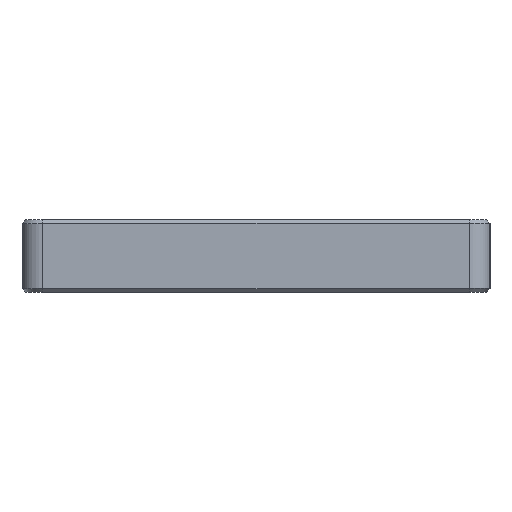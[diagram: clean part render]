
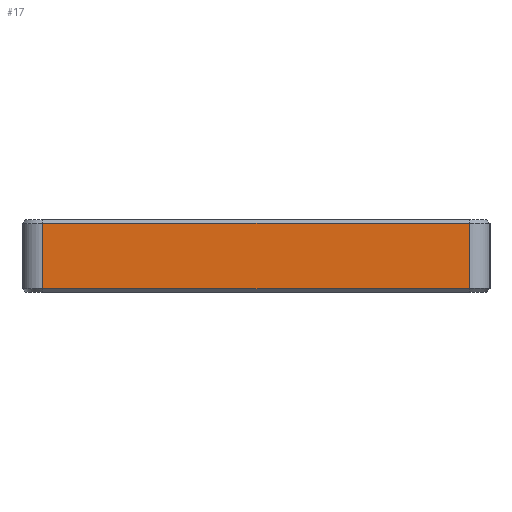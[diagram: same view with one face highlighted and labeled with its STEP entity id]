
A CAD part, left-side view. The second image highlights one B-rep face of the part: STEP entity #17.
In plain terms, the highlighted planar face has unit normal (-1, 0, 0).
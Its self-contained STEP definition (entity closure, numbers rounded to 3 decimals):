
#17 = ADVANCED_FACE('',(#18),#32,.F.);
#18 = FACE_BOUND('',#19,.F.);
#19 = EDGE_LOOP('',(#20,#55,#83,#111));
#20 = ORIENTED_EDGE('',*,*,#21,.F.);
#21 = EDGE_CURVE('',#22,#24,#26,.T.);
#22 = VERTEX_POINT('',#23);
#23 = CARTESIAN_POINT('',(-26.,-8.2,-1.25));
#24 = VERTEX_POINT('',#25);
#25 = CARTESIAN_POINT('',(-26.,-8.2,1.25));
#26 = SURFACE_CURVE('',#27,(#31,#43),.PCURVE_S1.);
#27 = LINE('',#28,#29);
#28 = CARTESIAN_POINT('',(-26.,-8.2,-1.4));
#29 = VECTOR('',#30,1.);
#30 = DIRECTION('',(0.,0.,1.));
#31 = PCURVE('',#32,#37);
#32 = PLANE('',#33);
#33 = AXIS2_PLACEMENT_3D('',#34,#35,#36);
#34 = CARTESIAN_POINT('',(-26.,-9.,-1.4));
#35 = DIRECTION('',(1.,0.,0.));
#36 = DIRECTION('',(0.,0.,1.));
#37 = DEFINITIONAL_REPRESENTATION('',(#38),#42);
#38 = LINE('',#39,#40);
#39 = CARTESIAN_POINT('',(0.,-0.8));
#40 = VECTOR('',#41,1.);
#41 = DIRECTION('',(1.,0.));
#42 = ( GEOMETRIC_REPRESENTATION_CONTEXT(2) 
PARAMETRIC_REPRESENTATION_CONTEXT() REPRESENTATION_CONTEXT('2D SPACE',''
  ) );
#43 = PCURVE('',#44,#49);
#44 = CYLINDRICAL_SURFACE('',#45,0.8);
#45 = AXIS2_PLACEMENT_3D('',#46,#47,#48);
#46 = CARTESIAN_POINT('',(-25.2,-8.2,-1.4));
#47 = DIRECTION('',(0.,0.,1.));
#48 = DIRECTION('',(-1.,-0.,0.));
#49 = DEFINITIONAL_REPRESENTATION('',(#50),#54);
#50 = LINE('',#51,#52);
#51 = CARTESIAN_POINT('',(0.,0.));
#52 = VECTOR('',#53,1.);
#53 = DIRECTION('',(0.,1.));
#54 = ( GEOMETRIC_REPRESENTATION_CONTEXT(2) 
PARAMETRIC_REPRESENTATION_CONTEXT() REPRESENTATION_CONTEXT('2D SPACE',''
  ) );
#55 = ORIENTED_EDGE('',*,*,#56,.F.);
#56 = EDGE_CURVE('',#57,#22,#59,.T.);
#57 = VERTEX_POINT('',#58);
#58 = CARTESIAN_POINT('',(-26.,8.2,-1.25));
#59 = SURFACE_CURVE('',#60,(#64,#71),.PCURVE_S1.);
#60 = LINE('',#61,#62);
#61 = CARTESIAN_POINT('',(-26.,8.2,-1.25));
#62 = VECTOR('',#63,1.);
#63 = DIRECTION('',(-0.,-1.,-0.));
#64 = PCURVE('',#32,#65);
#65 = DEFINITIONAL_REPRESENTATION('',(#66),#70);
#66 = LINE('',#67,#68);
#67 = CARTESIAN_POINT('',(0.15,-17.2));
#68 = VECTOR('',#69,1.);
#69 = DIRECTION('',(-0.,1.));
#70 = ( GEOMETRIC_REPRESENTATION_CONTEXT(2) 
PARAMETRIC_REPRESENTATION_CONTEXT() REPRESENTATION_CONTEXT('2D SPACE',''
  ) );
#71 = PCURVE('',#72,#77);
#72 = PLANE('',#73);
#73 = AXIS2_PLACEMENT_3D('',#74,#75,#76);
#74 = CARTESIAN_POINT('',(-25.925,8.2,-1.325));
#75 = DIRECTION('',(-0.707,0.,-0.707));
#76 = DIRECTION('',(-0.,1.,0.));
#77 = DEFINITIONAL_REPRESENTATION('',(#78),#82);
#78 = LINE('',#79,#80);
#79 = CARTESIAN_POINT('',(-0.,-0.106));
#80 = VECTOR('',#81,1.);
#81 = DIRECTION('',(-1.,0.));
#82 = ( GEOMETRIC_REPRESENTATION_CONTEXT(2) 
PARAMETRIC_REPRESENTATION_CONTEXT() REPRESENTATION_CONTEXT('2D SPACE',''
  ) );
#83 = ORIENTED_EDGE('',*,*,#84,.T.);
#84 = EDGE_CURVE('',#57,#85,#87,.T.);
#85 = VERTEX_POINT('',#86);
#86 = CARTESIAN_POINT('',(-26.,8.2,1.25));
#87 = SURFACE_CURVE('',#88,(#92,#99),.PCURVE_S1.);
#88 = LINE('',#89,#90);
#89 = CARTESIAN_POINT('',(-26.,8.2,-1.4));
#90 = VECTOR('',#91,1.);
#91 = DIRECTION('',(0.,0.,1.));
#92 = PCURVE('',#32,#93);
#93 = DEFINITIONAL_REPRESENTATION('',(#94),#98);
#94 = LINE('',#95,#96);
#95 = CARTESIAN_POINT('',(0.,-17.2));
#96 = VECTOR('',#97,1.);
#97 = DIRECTION('',(1.,0.));
#98 = ( GEOMETRIC_REPRESENTATION_CONTEXT(2) 
PARAMETRIC_REPRESENTATION_CONTEXT() REPRESENTATION_CONTEXT('2D SPACE',''
  ) );
#99 = PCURVE('',#100,#105);
#100 = CYLINDRICAL_SURFACE('',#101,0.8);
#101 = AXIS2_PLACEMENT_3D('',#102,#103,#104);
#102 = CARTESIAN_POINT('',(-25.2,8.2,-1.4));
#103 = DIRECTION('',(0.,0.,1.));
#104 = DIRECTION('',(-1.,-0.,0.));
#105 = DEFINITIONAL_REPRESENTATION('',(#106),#110);
#106 = LINE('',#107,#108);
#107 = CARTESIAN_POINT('',(-0.,0.));
#108 = VECTOR('',#109,1.);
#109 = DIRECTION('',(-0.,1.));
#110 = ( GEOMETRIC_REPRESENTATION_CONTEXT(2) 
PARAMETRIC_REPRESENTATION_CONTEXT() REPRESENTATION_CONTEXT('2D SPACE',''
  ) );
#111 = ORIENTED_EDGE('',*,*,#112,.T.);
#112 = EDGE_CURVE('',#85,#24,#113,.T.);
#113 = SURFACE_CURVE('',#114,(#118,#125),.PCURVE_S1.);
#114 = LINE('',#115,#116);
#115 = CARTESIAN_POINT('',(-26.,8.2,1.25));
#116 = VECTOR('',#117,1.);
#117 = DIRECTION('',(-0.,-1.,-0.));
#118 = PCURVE('',#32,#119);
#119 = DEFINITIONAL_REPRESENTATION('',(#120),#124);
#120 = LINE('',#121,#122);
#121 = CARTESIAN_POINT('',(2.65,-17.2));
#122 = VECTOR('',#123,1.);
#123 = DIRECTION('',(-0.,1.));
#124 = ( GEOMETRIC_REPRESENTATION_CONTEXT(2) 
PARAMETRIC_REPRESENTATION_CONTEXT() REPRESENTATION_CONTEXT('2D SPACE',''
  ) );
#125 = PCURVE('',#126,#131);
#126 = PLANE('',#127);
#127 = AXIS2_PLACEMENT_3D('',#128,#129,#130);
#128 = CARTESIAN_POINT('',(-25.925,8.2,1.325));
#129 = DIRECTION('',(0.707,0.,-0.707));
#130 = DIRECTION('',(0.,-1.,-0.));
#131 = DEFINITIONAL_REPRESENTATION('',(#132),#136);
#132 = LINE('',#133,#134);
#133 = CARTESIAN_POINT('',(0.,0.106));
#134 = VECTOR('',#135,1.);
#135 = DIRECTION('',(1.,0.));
#136 = ( GEOMETRIC_REPRESENTATION_CONTEXT(2) 
PARAMETRIC_REPRESENTATION_CONTEXT() REPRESENTATION_CONTEXT('2D SPACE',''
  ) );
